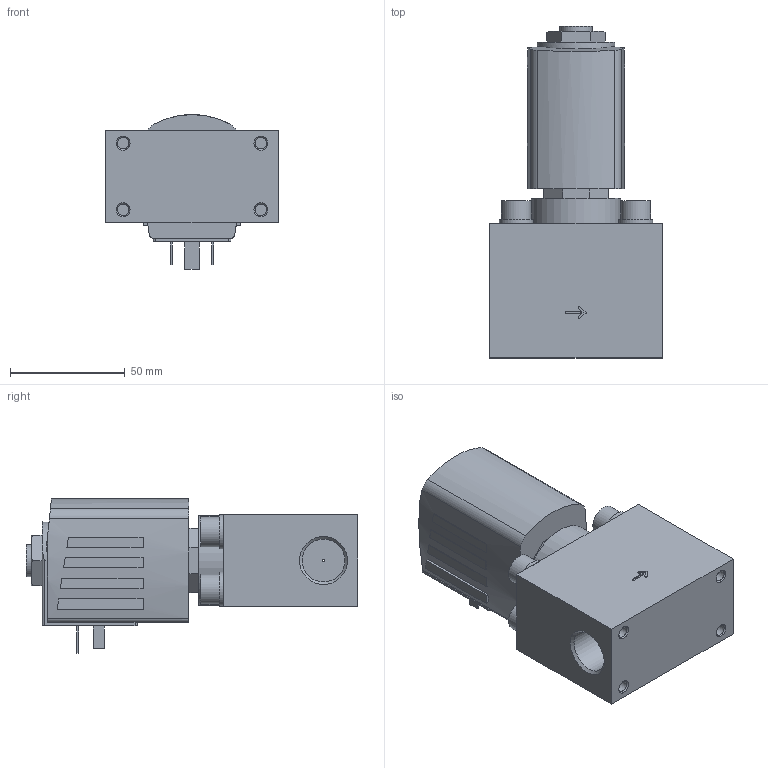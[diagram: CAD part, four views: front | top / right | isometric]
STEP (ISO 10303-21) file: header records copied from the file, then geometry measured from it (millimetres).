
FILE_DESCRIPTION(/* description */ ('STEP AP214'),/* implementation_level */ '2;1');
FILE_NAME(/* name */ '6240-374995-2_2-way_solenoid_valve__pilot-controlled',/* time_stamp */ '2024-05-10T12:28:59+02:00',/* author */ ('License CC BY-ND 4.0'),/* organization */ ('CADENAS'),/* preprocessor_version */ 'ST-DEVELOPER v19.3',/* originating_system */ 'PARTsolutions',/* authorisation */ ' ');
FILE_SCHEMA (('AUTOMOTIVE_DESIGN {1 0 10303 214 3 1 1}'));
Length unit declared in the file: millimetre
Products named in the file (3): 6240-374995-2/2-way solenoid valve, pilot-controlled; 6240-Gehaeuse-2/2-Wege-Magnetventil, vorgesteuert MX32G1/212VA; AC10ex-42SG=k-Plan-Coil
Assembly tree (2 placements, depth 2):
  6240-374995-2/2-way solenoid valve, pilot-controlled
    6240-Gehaeuse-2/2-Wege-Magnetventil, vorgesteuert MX32G1/212VA
    AC10ex-42SG=k-Plan-Coil
Bounding box: 75 x 144.7 x 67.5 mm (x, y, z)
Volume: 324495.9 mm3; surface area: 42501.6 mm2
Topology: 2 solids, 2 shells, 190 faces, 441 edges, 290 vertices
Faces by surface type: plane 141, cylinder 36, cone 13
Full cylindrical faces by diameter (mm): 1 x1, 2.013 x1, 4.917 x4, 13 x4, 14 x1, 14.8 x4, 18.631 x2, 39 x1
Entity records: 5995 total; most frequent: CARTESIAN_POINT 947, DIRECTION 888, ORIENTED_EDGE 830, EDGE_CURVE 415, LINE 296, VECTOR 296, AXIS2_PLACEMENT_3D 296, VERTEX_POINT 289
